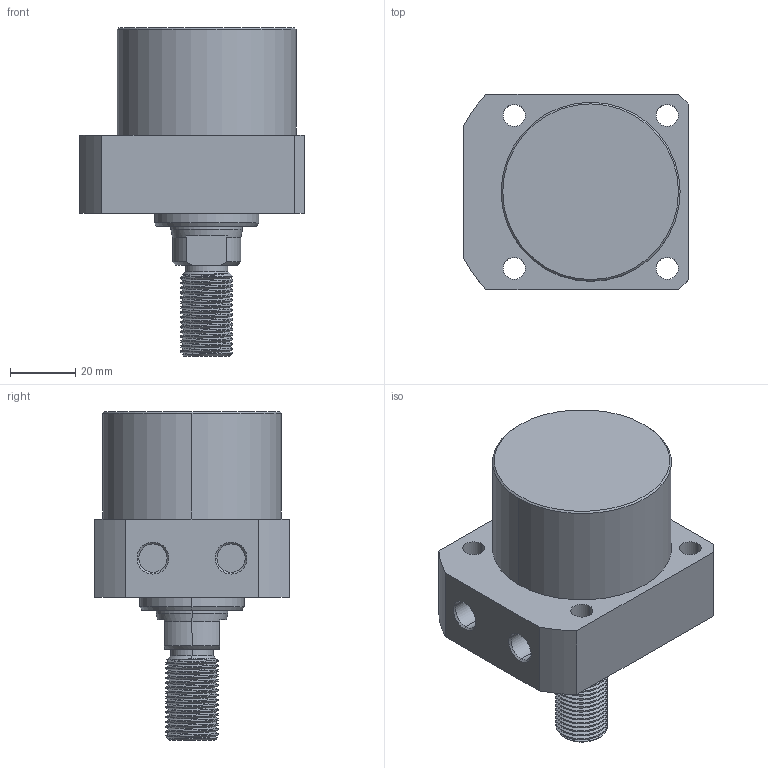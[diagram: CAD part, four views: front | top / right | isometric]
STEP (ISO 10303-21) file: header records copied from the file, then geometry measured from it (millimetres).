
FILE_DESCRIPTION (( 'STEP AP214' ), '1' );
FILE_NAME ('CLLR-055CT-020.STEP', '2020-01-09T00:13:29', ( 'Windows' ), ( 'Microsoft' ), 'SwSTEP 2.0', 'SolidWorks 2015', '' );
FILE_SCHEMA (( 'AUTOMOTIVE_DESIGN' ));
Length unit declared in the file: millimetre
Products named in the file (1): CLLR-055CT-020
Bounding box: 69 x 60 x 101 mm (x, y, z)
Volume: 182807.7 mm3; surface area: 25614.2 mm2
Topology: 1 solids, 1 shells, 101 faces, 259 edges, 168 vertices
Faces by surface type: cylinder 62, plane 20, cone 17, bspline 2
Entity records: 5002 total; most frequent: CARTESIAN_POINT 2658, ORIENTED_EDGE 518, DIRECTION 456, EDGE_CURVE 259, AXIS2_PLACEMENT_3D 178, VERTEX_POINT 168, EDGE_LOOP 117, FACE_OUTER_BOUND 101
